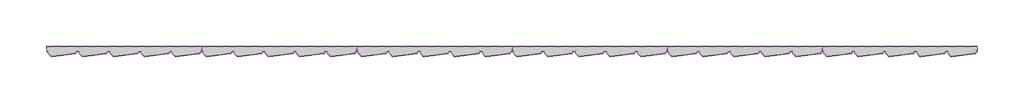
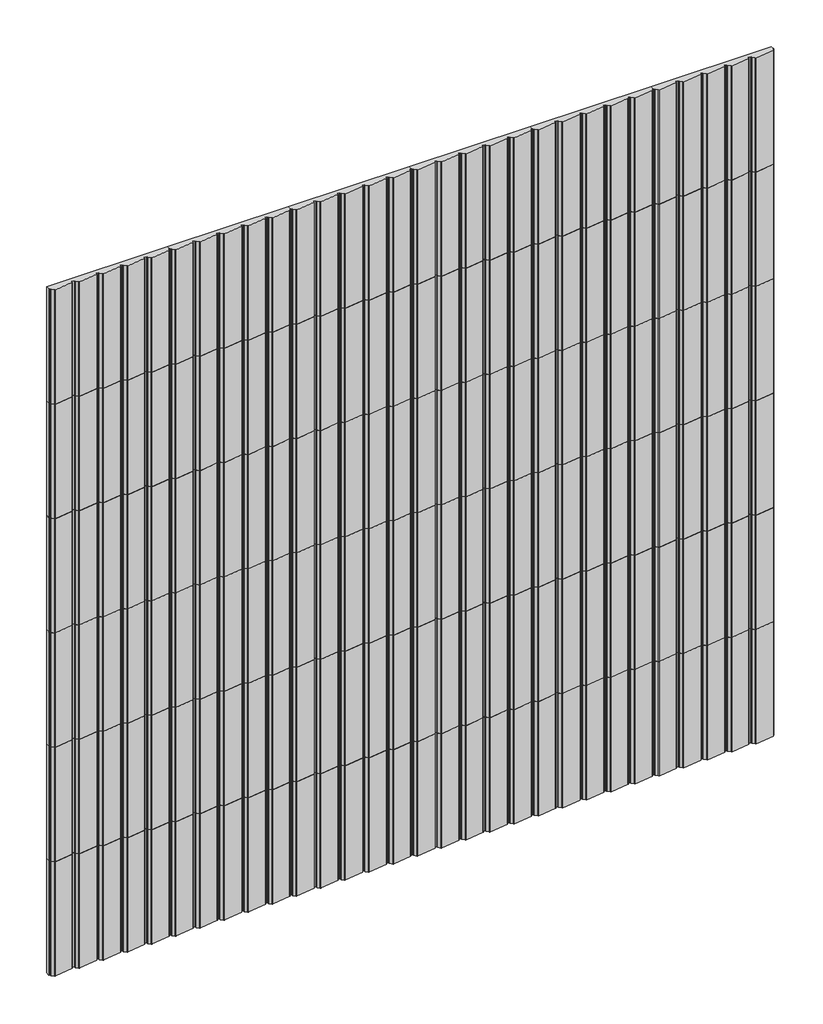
# One storey: 36 proxies.
"""IFC4 building model written with IfcOpenShell, lengths in millimetres."""

from ifc_helpers import new_model, si_unit, origin, place, context, project, spatial, transform, mapped, element, save
from components import specialty_equipment_dc48855c

model = new_model("IFC4")

# Units and contexts
model_context = context("Model", 3, world=origin())
ifc_project = project(units=[si_unit("LENGTHUNIT", "METRE", prefix="MILLI")], contexts=[model_context])

# Site, building, storey
site = spatial("IfcSite", under=ifc_project)
building = spatial("IfcBuilding", under=site)
storey = spatial("IfcBuildingStorey", under=building, Name="Nível 1", Elevation=0.0)

# Proxies
placement = place(None, origin())
specialty_equipment_shape = specialty_equipment_dc48855c(model_context)
element("IfcBuildingElementProxy", 1, Name="Spinneybeck_Porto 3 : Porto 3", ObjectType="Spinneybeck_Porto 3 : Porto 3", at=placement, inside=storey, context=model_context, shape_type="MappedRepresentation", body=[
    mapped(specialty_equipment_shape, transform((-11719.9950363, 552.5357437, 203.2), x_axis=(1.0, 0.0, 0.0), y_axis=(0.0, 0.0, 1.0), z_axis=(0.0, -1.0, 0.0))),
])
element("IfcBuildingElementProxy", 2, Name="Spinneybeck_Porto 3 : Porto 3", ObjectType="Spinneybeck_Porto 3 : Porto 3", at=placement, inside=storey, context=model_context, shape_type="MappedRepresentation", body=[
    mapped(specialty_equipment_shape, transform((-11719.9950363, 552.5357437, 609.6), x_axis=(1.0, 0.0, 0.0), y_axis=(0.0, 0.0, 1.0), z_axis=(0.0, -1.0, 0.0))),
])
element("IfcBuildingElementProxy", 3, Name="Spinneybeck_Porto 3 : Porto 3", ObjectType="Spinneybeck_Porto 3 : Porto 3", at=placement, inside=storey, context=model_context, shape_type="MappedRepresentation", body=[
    mapped(specialty_equipment_shape, transform((-11719.9950363, 552.5357437, 1016.0), x_axis=(1.0, 0.0, 0.0), y_axis=(0.0, 0.0, 1.0), z_axis=(0.0, -1.0, 0.0))),
])
element("IfcBuildingElementProxy", 4, Name="Spinneybeck_Porto 3 : Porto 3", ObjectType="Spinneybeck_Porto 3 : Porto 3", at=placement, inside=storey, context=model_context, shape_type="MappedRepresentation", body=[
    mapped(specialty_equipment_shape, transform((-11719.9950363, 552.5357437, 1422.4), x_axis=(1.0, 0.0, 0.0), y_axis=(0.0, 0.0, 1.0), z_axis=(0.0, -1.0, 0.0))),
])
element("IfcBuildingElementProxy", 5, Name="Spinneybeck_Porto 3 : Porto 3", ObjectType="Spinneybeck_Porto 3 : Porto 3", at=placement, inside=storey, context=model_context, shape_type="MappedRepresentation", body=[
    mapped(specialty_equipment_shape, transform((-11719.9950363, 552.5357437, 1828.8), x_axis=(1.0, 0.0, 0.0), y_axis=(0.0, 0.0, 1.0), z_axis=(0.0, -1.0, 0.0))),
])
element("IfcBuildingElementProxy", 6, Name="Spinneybeck_Porto 3 : Porto 3", ObjectType="Spinneybeck_Porto 3 : Porto 3", at=placement, inside=storey, context=model_context, shape_type="MappedRepresentation", body=[
    mapped(specialty_equipment_shape, transform((-11719.9950363, 552.5357437, 2235.2), x_axis=(1.0, 0.0, 0.0), y_axis=(0.0, 0.0, 1.0), z_axis=(0.0, -1.0, 0.0))),
])
element("IfcBuildingElementProxy", 7, Name="Spinneybeck_Porto 3 : Porto 3", ObjectType="Spinneybeck_Porto 3 : Porto 3", at=placement, inside=storey, context=model_context, shape_type="MappedRepresentation", body=[
    mapped(specialty_equipment_shape, transform((-11313.5950363, 552.5357437, 203.2), x_axis=(1.0, 0.0, 0.0), y_axis=(0.0, 0.0, 1.0), z_axis=(0.0, -1.0, 0.0))),
])
element("IfcBuildingElementProxy", 8, Name="Spinneybeck_Porto 3 : Porto 3", ObjectType="Spinneybeck_Porto 3 : Porto 3", at=placement, inside=storey, context=model_context, shape_type="MappedRepresentation", body=[
    mapped(specialty_equipment_shape, transform((-11313.5950363, 552.5357437, 609.6), x_axis=(1.0, 0.0, 0.0), y_axis=(0.0, 0.0, 1.0), z_axis=(0.0, -1.0, 0.0))),
])
element("IfcBuildingElementProxy", 9, Name="Spinneybeck_Porto 3 : Porto 3", ObjectType="Spinneybeck_Porto 3 : Porto 3", at=placement, inside=storey, context=model_context, shape_type="MappedRepresentation", body=[
    mapped(specialty_equipment_shape, transform((-11313.5950363, 552.5357437, 1016.0), x_axis=(1.0, 0.0, 0.0), y_axis=(0.0, 0.0, 1.0), z_axis=(0.0, -1.0, 0.0))),
])
element("IfcBuildingElementProxy", 10, Name="Spinneybeck_Porto 3 : Porto 3", ObjectType="Spinneybeck_Porto 3 : Porto 3", at=placement, inside=storey, context=model_context, shape_type="MappedRepresentation", body=[
    mapped(specialty_equipment_shape, transform((-11313.5950363, 552.5357437, 1422.4), x_axis=(1.0, 0.0, 0.0), y_axis=(0.0, 0.0, 1.0), z_axis=(0.0, -1.0, 0.0))),
])
element("IfcBuildingElementProxy", 11, Name="Spinneybeck_Porto 3 : Porto 3", ObjectType="Spinneybeck_Porto 3 : Porto 3", at=placement, inside=storey, context=model_context, shape_type="MappedRepresentation", body=[
    mapped(specialty_equipment_shape, transform((-11313.5950363, 552.5357437, 1828.8), x_axis=(1.0, 0.0, 0.0), y_axis=(0.0, 0.0, 1.0), z_axis=(0.0, -1.0, 0.0))),
])
element("IfcBuildingElementProxy", 12, Name="Spinneybeck_Porto 3 : Porto 3", ObjectType="Spinneybeck_Porto 3 : Porto 3", at=placement, inside=storey, context=model_context, shape_type="MappedRepresentation", body=[
    mapped(specialty_equipment_shape, transform((-11313.5950363, 552.5357437, 2235.2), x_axis=(1.0, 0.0, 0.0), y_axis=(0.0, 0.0, 1.0), z_axis=(0.0, -1.0, 0.0))),
])
element("IfcBuildingElementProxy", 13, Name="Spinneybeck_Porto 3 : Porto 3", ObjectType="Spinneybeck_Porto 3 : Porto 3", at=placement, inside=storey, context=model_context, shape_type="MappedRepresentation", body=[
    mapped(specialty_equipment_shape, transform((-10907.1950363, 552.5357437, 203.2), x_axis=(1.0, 0.0, 0.0), y_axis=(0.0, 0.0, 1.0), z_axis=(0.0, -1.0, 0.0))),
])
element("IfcBuildingElementProxy", 14, Name="Spinneybeck_Porto 3 : Porto 3", ObjectType="Spinneybeck_Porto 3 : Porto 3", at=placement, inside=storey, context=model_context, shape_type="MappedRepresentation", body=[
    mapped(specialty_equipment_shape, transform((-10907.1950363, 552.5357437, 609.6), x_axis=(1.0, 0.0, 0.0), y_axis=(0.0, 0.0, 1.0), z_axis=(0.0, -1.0, 0.0))),
])
element("IfcBuildingElementProxy", 15, Name="Spinneybeck_Porto 3 : Porto 3", ObjectType="Spinneybeck_Porto 3 : Porto 3", at=placement, inside=storey, context=model_context, shape_type="MappedRepresentation", body=[
    mapped(specialty_equipment_shape, transform((-10907.1950363, 552.5357437, 1016.0), x_axis=(1.0, 0.0, 0.0), y_axis=(0.0, 0.0, 1.0), z_axis=(0.0, -1.0, 0.0))),
])
element("IfcBuildingElementProxy", 16, Name="Spinneybeck_Porto 3 : Porto 3", ObjectType="Spinneybeck_Porto 3 : Porto 3", at=placement, inside=storey, context=model_context, shape_type="MappedRepresentation", body=[
    mapped(specialty_equipment_shape, transform((-10907.1950363, 552.5357437, 1422.4), x_axis=(1.0, 0.0, 0.0), y_axis=(0.0, 0.0, 1.0), z_axis=(0.0, -1.0, 0.0))),
])
element("IfcBuildingElementProxy", 17, Name="Spinneybeck_Porto 3 : Porto 3", ObjectType="Spinneybeck_Porto 3 : Porto 3", at=placement, inside=storey, context=model_context, shape_type="MappedRepresentation", body=[
    mapped(specialty_equipment_shape, transform((-10907.1950363, 552.5357437, 1828.8), x_axis=(1.0, 0.0, 0.0), y_axis=(0.0, 0.0, 1.0), z_axis=(0.0, -1.0, 0.0))),
])
element("IfcBuildingElementProxy", 18, Name="Spinneybeck_Porto 3 : Porto 3", ObjectType="Spinneybeck_Porto 3 : Porto 3", at=placement, inside=storey, context=model_context, shape_type="MappedRepresentation", body=[
    mapped(specialty_equipment_shape, transform((-10907.1950363, 552.5357437, 2235.2), x_axis=(1.0, 0.0, 0.0), y_axis=(0.0, 0.0, 1.0), z_axis=(0.0, -1.0, 0.0))),
])
element("IfcBuildingElementProxy", 19, Name="Spinneybeck_Porto 3 : Porto 3", ObjectType="Spinneybeck_Porto 3 : Porto 3", at=placement, inside=storey, context=model_context, shape_type="MappedRepresentation", body=[
    mapped(specialty_equipment_shape, transform((-10500.7950363, 552.5357437, 203.2), x_axis=(1.0, 0.0, 0.0), y_axis=(0.0, 0.0, 1.0), z_axis=(0.0, -1.0, 0.0))),
])
element("IfcBuildingElementProxy", 20, Name="Spinneybeck_Porto 3 : Porto 3", ObjectType="Spinneybeck_Porto 3 : Porto 3", at=placement, inside=storey, context=model_context, shape_type="MappedRepresentation", body=[
    mapped(specialty_equipment_shape, transform((-10500.7950363, 552.5357437, 609.6), x_axis=(1.0, 0.0, 0.0), y_axis=(0.0, 0.0, 1.0), z_axis=(0.0, -1.0, 0.0))),
])
element("IfcBuildingElementProxy", 21, Name="Spinneybeck_Porto 3 : Porto 3", ObjectType="Spinneybeck_Porto 3 : Porto 3", at=placement, inside=storey, context=model_context, shape_type="MappedRepresentation", body=[
    mapped(specialty_equipment_shape, transform((-10500.7950363, 552.5357437, 1016.0), x_axis=(1.0, 0.0, 0.0), y_axis=(0.0, 0.0, 1.0), z_axis=(0.0, -1.0, 0.0))),
])
element("IfcBuildingElementProxy", 22, Name="Spinneybeck_Porto 3 : Porto 3", ObjectType="Spinneybeck_Porto 3 : Porto 3", at=placement, inside=storey, context=model_context, shape_type="MappedRepresentation", body=[
    mapped(specialty_equipment_shape, transform((-10500.7950363, 552.5357437, 1422.4), x_axis=(1.0, 0.0, 0.0), y_axis=(0.0, 0.0, 1.0), z_axis=(0.0, -1.0, 0.0))),
])
element("IfcBuildingElementProxy", 23, Name="Spinneybeck_Porto 3 : Porto 3", ObjectType="Spinneybeck_Porto 3 : Porto 3", at=placement, inside=storey, context=model_context, shape_type="MappedRepresentation", body=[
    mapped(specialty_equipment_shape, transform((-10500.7950363, 552.5357437, 1828.8), x_axis=(1.0, 0.0, 0.0), y_axis=(0.0, 0.0, 1.0), z_axis=(0.0, -1.0, 0.0))),
])
element("IfcBuildingElementProxy", 24, Name="Spinneybeck_Porto 3 : Porto 3", ObjectType="Spinneybeck_Porto 3 : Porto 3", at=placement, inside=storey, context=model_context, shape_type="MappedRepresentation", body=[
    mapped(specialty_equipment_shape, transform((-10500.7950363, 552.5357437, 2235.2), x_axis=(1.0, 0.0, 0.0), y_axis=(0.0, 0.0, 1.0), z_axis=(0.0, -1.0, 0.0))),
])
element("IfcBuildingElementProxy", 25, Name="Spinneybeck_Porto 3 : Porto 3", ObjectType="Spinneybeck_Porto 3 : Porto 3", at=placement, inside=storey, context=model_context, shape_type="MappedRepresentation", body=[
    mapped(specialty_equipment_shape, transform((-10094.3950363, 552.5357437, 203.2), x_axis=(1.0, 0.0, 0.0), y_axis=(0.0, 0.0, 1.0), z_axis=(0.0, -1.0, 0.0))),
])
element("IfcBuildingElementProxy", 26, Name="Spinneybeck_Porto 3 : Porto 3", ObjectType="Spinneybeck_Porto 3 : Porto 3", at=placement, inside=storey, context=model_context, shape_type="MappedRepresentation", body=[
    mapped(specialty_equipment_shape, transform((-10094.3950363, 552.5357437, 609.6), x_axis=(1.0, 0.0, 0.0), y_axis=(0.0, 0.0, 1.0), z_axis=(0.0, -1.0, 0.0))),
])
element("IfcBuildingElementProxy", 27, Name="Spinneybeck_Porto 3 : Porto 3", ObjectType="Spinneybeck_Porto 3 : Porto 3", at=placement, inside=storey, context=model_context, shape_type="MappedRepresentation", body=[
    mapped(specialty_equipment_shape, transform((-10094.3950363, 552.5357437, 1016.0), x_axis=(1.0, 0.0, 0.0), y_axis=(0.0, 0.0, 1.0), z_axis=(0.0, -1.0, 0.0))),
])
element("IfcBuildingElementProxy", 28, Name="Spinneybeck_Porto 3 : Porto 3", ObjectType="Spinneybeck_Porto 3 : Porto 3", at=placement, inside=storey, context=model_context, shape_type="MappedRepresentation", body=[
    mapped(specialty_equipment_shape, transform((-10094.3950363, 552.5357437, 1422.4), x_axis=(1.0, 0.0, 0.0), y_axis=(0.0, 0.0, 1.0), z_axis=(0.0, -1.0, 0.0))),
])
element("IfcBuildingElementProxy", 29, Name="Spinneybeck_Porto 3 : Porto 3", ObjectType="Spinneybeck_Porto 3 : Porto 3", at=placement, inside=storey, context=model_context, shape_type="MappedRepresentation", body=[
    mapped(specialty_equipment_shape, transform((-10094.3950363, 552.5357437, 1828.8), x_axis=(1.0, 0.0, 0.0), y_axis=(0.0, 0.0, 1.0), z_axis=(0.0, -1.0, 0.0))),
])
element("IfcBuildingElementProxy", 30, Name="Spinneybeck_Porto 3 : Porto 3", ObjectType="Spinneybeck_Porto 3 : Porto 3", at=placement, inside=storey, context=model_context, shape_type="MappedRepresentation", body=[
    mapped(specialty_equipment_shape, transform((-10094.3950363, 552.5357437, 2235.2), x_axis=(1.0, 0.0, 0.0), y_axis=(0.0, 0.0, 1.0), z_axis=(0.0, -1.0, 0.0))),
])
element("IfcBuildingElementProxy", 31, Name="Spinneybeck_Porto 3 : Porto 3", ObjectType="Spinneybeck_Porto 3 : Porto 3", at=placement, inside=storey, context=model_context, shape_type="MappedRepresentation", body=[
    mapped(specialty_equipment_shape, transform((-9687.9950363, 552.5357437, 203.2), x_axis=(1.0, 0.0, 0.0), y_axis=(0.0, 0.0, 1.0), z_axis=(0.0, -1.0, 0.0))),
])
element("IfcBuildingElementProxy", 32, Name="Spinneybeck_Porto 3 : Porto 3", ObjectType="Spinneybeck_Porto 3 : Porto 3", at=placement, inside=storey, context=model_context, shape_type="MappedRepresentation", body=[
    mapped(specialty_equipment_shape, transform((-9687.9950363, 552.5357437, 609.6), x_axis=(1.0, 0.0, 0.0), y_axis=(0.0, 0.0, 1.0), z_axis=(0.0, -1.0, 0.0))),
])
element("IfcBuildingElementProxy", 33, Name="Spinneybeck_Porto 3 : Porto 3", ObjectType="Spinneybeck_Porto 3 : Porto 3", at=placement, inside=storey, context=model_context, shape_type="MappedRepresentation", body=[
    mapped(specialty_equipment_shape, transform((-9687.9950363, 552.5357437, 1016.0), x_axis=(1.0, 0.0, 0.0), y_axis=(0.0, 0.0, 1.0), z_axis=(0.0, -1.0, 0.0))),
])
element("IfcBuildingElementProxy", 34, Name="Spinneybeck_Porto 3 : Porto 3", ObjectType="Spinneybeck_Porto 3 : Porto 3", at=placement, inside=storey, context=model_context, shape_type="MappedRepresentation", body=[
    mapped(specialty_equipment_shape, transform((-9687.9950363, 552.5357437, 1422.4), x_axis=(1.0, 0.0, 0.0), y_axis=(0.0, 0.0, 1.0), z_axis=(0.0, -1.0, 0.0))),
])
element("IfcBuildingElementProxy", 35, Name="Spinneybeck_Porto 3 : Porto 3", ObjectType="Spinneybeck_Porto 3 : Porto 3", at=placement, inside=storey, context=model_context, shape_type="MappedRepresentation", body=[
    mapped(specialty_equipment_shape, transform((-9687.9950363, 552.5357437, 1828.8), x_axis=(1.0, 0.0, 0.0), y_axis=(0.0, 0.0, 1.0), z_axis=(0.0, -1.0, 0.0))),
])
element("IfcBuildingElementProxy", 36, Name="Spinneybeck_Porto 3 : Porto 3", ObjectType="Spinneybeck_Porto 3 : Porto 3", at=placement, inside=storey, context=model_context, shape_type="MappedRepresentation", body=[
    mapped(specialty_equipment_shape, transform((-9687.9950363, 552.5357437, 2235.2), x_axis=(1.0, 0.0, 0.0), y_axis=(0.0, 0.0, 1.0), z_axis=(0.0, -1.0, 0.0))),
])

save(model, "model.ifc")
